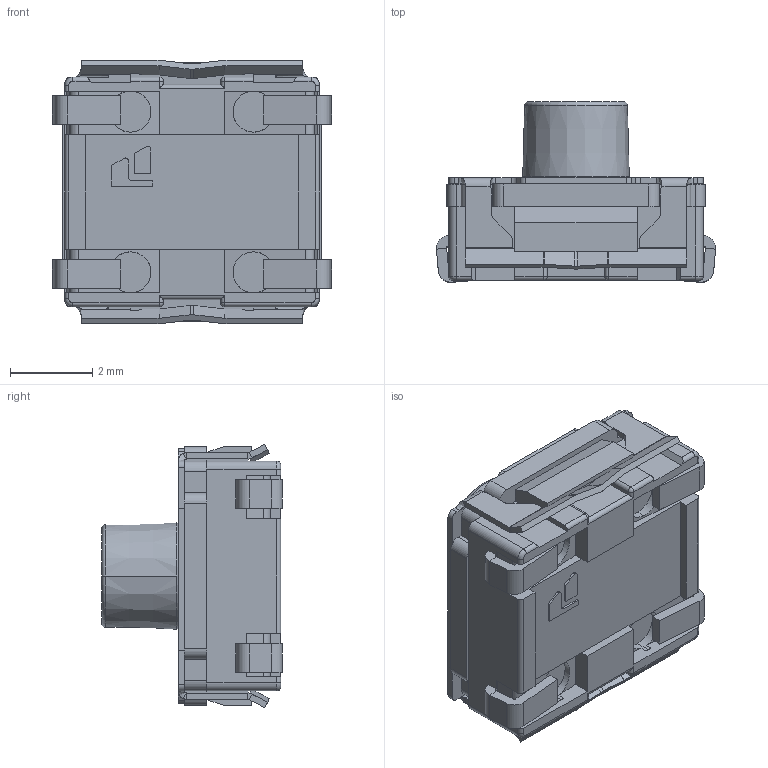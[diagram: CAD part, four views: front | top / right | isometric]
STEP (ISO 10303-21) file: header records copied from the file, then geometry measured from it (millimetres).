
FILE_DESCRIPTION (( 'STEP AP203' ), '1' );
FILE_NAME ('SKTTABE010.STEP', '2021-03-26T02:16:37', ( '' ), ( '' ), 'SwSTEP 2.0', 'SolidWorks 2019', '' );
FILE_SCHEMA (( 'CONFIG_CONTROL_DESIGN' ));
Length unit declared in the file: millimetre
Products named in the file (1): SKTTABE010
Bounding box: 6.8 x 4.4 x 6.42 mm (x, y, z)
Volume: 93.5 mm3; surface area: 225.9 mm2
Topology: 1 solids, 1 shells, 415 faces, 1127 edges, 702 vertices
Faces by surface type: plane 238, cylinder 145, torus 12, bspline 12, cone 4, sphere 4
Entity records: 13156 total; most frequent: CARTESIAN_POINT 2679, ORIENTED_EDGE 2246, DIRECTION 2131, EDGE_CURVE 1123, LINE 743, VECTOR 743, VERTEX_POINT 702, AXIS2_PLACEMENT_3D 694
